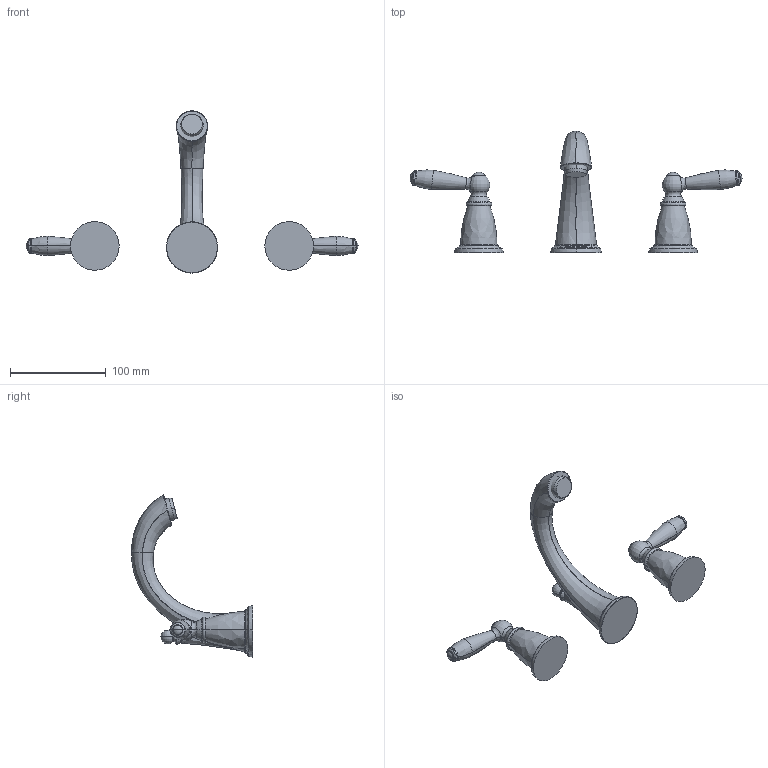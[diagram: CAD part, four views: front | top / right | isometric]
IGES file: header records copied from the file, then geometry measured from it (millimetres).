
Start section:  PTC IGES file: sku_t6620.igs
Global section: file name: sku_t6620.igs; native system: Pro/ENGINEER by Parametric Technology Corporation; preprocessor: 2006460; author: 9dutterb; organization: Unknown; date: 20071206.160503; units: inch
Bounding box: 347.16 x 126.77 x 169.52 mm (x, y, z)
Surface area: 53087.5 mm2 (no closed solid volume)
Topology: 0 solids, 0 shells, 158 faces, 644 edges, 634 vertices
Faces by surface type: revolution 114, bspline 44
